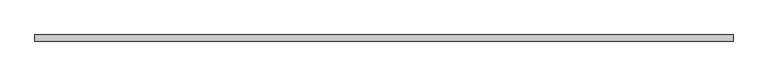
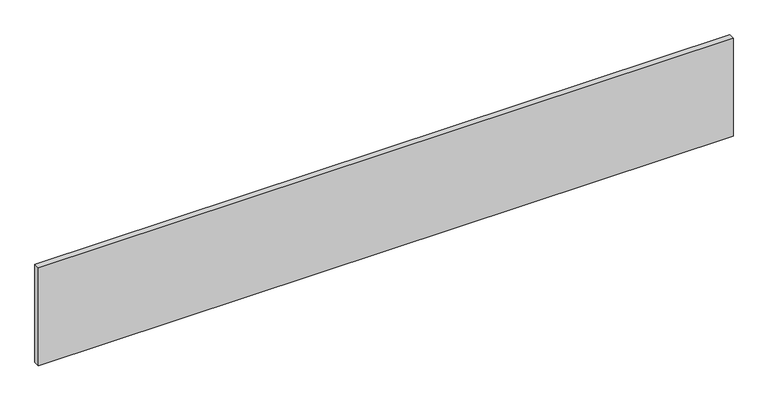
"""IFC4 building model written with IfcOpenShell, lengths in millimetres: plate geometry, 系统嵌板 : 玻璃."""

from ifc_helpers import new_model, si_unit, origin, origin_with_axes, place, context, project, spatial, polyline, outline, extrude, source, transform, mapped, element, save


def plate_ec4b1889(model_context):
    return source(origin(), model_context, "Body", "SweptSolid", [
        extrude(outline(polyline([(1425.0, -12.5), (-1425.0, -12.5), (-1425.0, 12.5), (1425.0, 12.5), (1425.0, -12.5)])), origin_with_axes(), (0.0, 0.0, 1.0), 425.0),
    ])


if __name__ == "__main__":
    model = new_model("IFC4")
    model_context = context("Model", 3, world=origin())
    ifc_project = project(units=[si_unit("LENGTHUNIT", "METRE", prefix="MILLI")], contexts=[model_context])
    site = spatial("IfcSite", under=ifc_project)
    building = spatial("IfcBuilding", under=site)
    placement = place(None, origin())
    plate_shape = plate_ec4b1889(model_context)
    element("IfcPlate", 1, ObjectType="系统嵌板 : 玻璃", at=placement, inside=building, context=model_context, shape_type="MappedRepresentation", body=[
        mapped(plate_shape, transform((0.0, 0.0, 0.0), x_axis=(1.0, 0.0, 0.0), y_axis=(0.0, 1.0, 0.0), z_axis=(0.0, 0.0, 1.0))),
    ])
    save(model, "model.ifc")
